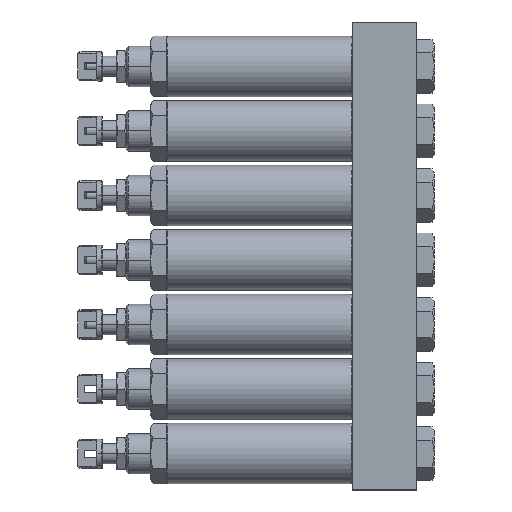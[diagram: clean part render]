
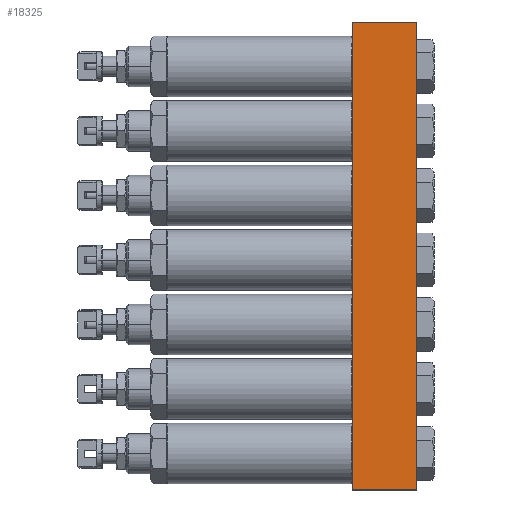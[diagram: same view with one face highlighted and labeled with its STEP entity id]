
A CAD part, left-side view. The second image highlights one B-rep face of the part: STEP entity #18325.
In plain terms, the highlighted planar face has unit normal (-1, 0, 0).
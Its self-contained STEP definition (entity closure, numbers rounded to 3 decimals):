
#10 = DIRECTION ( 'NONE',  ( 1., 0., 0. ) ) ;
#190 = CARTESIAN_POINT ( 'NONE',  ( -39.141, -83.285, 22. ) ) ;
#4899 = LINE ( 'NONE', #26705, #24961 ) ;
#5583 = DIRECTION ( 'NONE',  ( 0., 0., 1. ) ) ;
#7754 = CARTESIAN_POINT ( 'NONE',  ( -39.141, -51.285, 22. ) ) ;
#8908 = CARTESIAN_POINT ( 'NONE',  ( -39.141, -51.285, -210. ) ) ;
#9289 = AXIS2_PLACEMENT_3D ( 'NONE', #23676, #10, #25556 ) ;
#9478 = EDGE_CURVE ( 'NONE', #10931, #27409, #16453, .T. ) ;
#9574 = VERTEX_POINT ( 'NONE', #190 ) ;
#9702 = ORIENTED_EDGE ( 'NONE', *, *, #14077, .F. ) ;
#10139 = DIRECTION ( 'NONE',  ( 0., 0., 1. ) ) ;
#10931 = VERTEX_POINT ( 'NONE', #8908 ) ;
#12947 = ORIENTED_EDGE ( 'NONE', *, *, #15785, .T. ) ;
#13409 = CARTESIAN_POINT ( 'NONE',  ( -39.141, -83.285, -210. ) ) ;
#13658 = EDGE_LOOP ( 'NONE', ( #12947, #9702, #14385, #18311 ) ) ;
#14077 = EDGE_CURVE ( 'NONE', #27409, #9574, #18988, .T. ) ;
#14150 = DIRECTION ( 'NONE',  ( 0., -1., 0. ) ) ;
#14385 = ORIENTED_EDGE ( 'NONE', *, *, #9478, .F. ) ;
#15631 = VECTOR ( 'NONE', #23225, 1000. ) ;
#15785 = EDGE_CURVE ( 'NONE', #23839, #9574, #4899, .T. ) ;
#15859 = CARTESIAN_POINT ( 'NONE',  ( -39.141, -51.285, 22. ) ) ;
#16453 = LINE ( 'NONE', #7754, #24136 ) ;
#18295 = CARTESIAN_POINT ( 'NONE',  ( -39.141, -51.285, -210. ) ) ;
#18311 = ORIENTED_EDGE ( 'NONE', *, *, #25554, .T. ) ;
#18325 = ADVANCED_FACE ( 'NONE', ( #20148 ), #21334, .F. ) ;
#18947 = CARTESIAN_POINT ( 'NONE',  ( -39.141, -51.285, 22. ) ) ;
#18988 = LINE ( 'NONE', #18947, #15631 ) ;
#20148 = FACE_OUTER_BOUND ( 'NONE', #13658, .T. ) ;
#21334 = PLANE ( 'NONE',  #9289 ) ;
#23225 = DIRECTION ( 'NONE',  ( 0., -1., 0. ) ) ;
#23355 = LINE ( 'NONE', #18295, #24744 ) ;
#23676 = CARTESIAN_POINT ( 'NONE',  ( -39.141, -51.285, 22. ) ) ;
#23839 = VERTEX_POINT ( 'NONE', #13409 ) ;
#24136 = VECTOR ( 'NONE', #10139, 1000. ) ;
#24744 = VECTOR ( 'NONE', #14150, 1000. ) ;
#24961 = VECTOR ( 'NONE', #5583, 1000. ) ;
#25554 = EDGE_CURVE ( 'NONE', #10931, #23839, #23355, .T. ) ;
#25556 = DIRECTION ( 'NONE',  ( 0., 0., -1. ) ) ;
#26705 = CARTESIAN_POINT ( 'NONE',  ( -39.141, -83.285, 22. ) ) ;
#27409 = VERTEX_POINT ( 'NONE', #15859 ) ;
